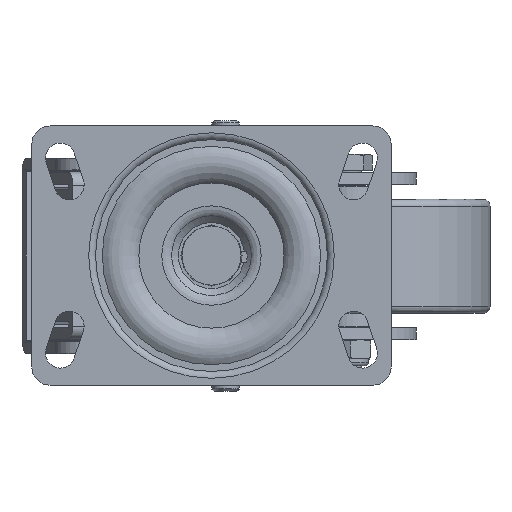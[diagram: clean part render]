
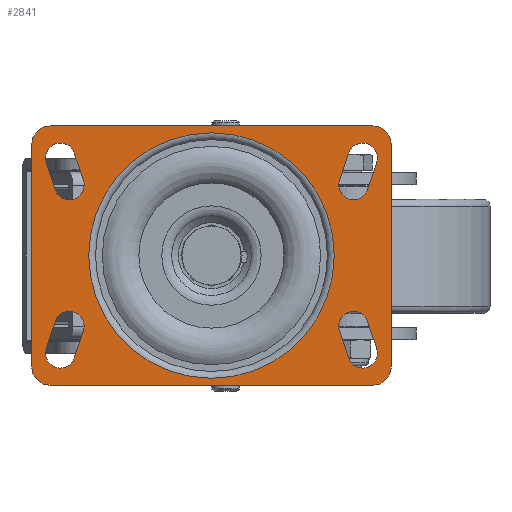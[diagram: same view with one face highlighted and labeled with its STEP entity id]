
A CAD part, top view. The second image highlights one B-rep face of the part: STEP entity #2841.
In plain terms, the highlighted planar face has unit normal (0, 0, 1).
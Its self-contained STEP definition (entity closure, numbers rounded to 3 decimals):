
#511=FACE_BOUND('',#4414,.T.);
#512=FACE_BOUND('',#4415,.T.);
#513=FACE_BOUND('',#4416,.T.);
#514=FACE_BOUND('',#4417,.T.);
#515=FACE_BOUND('',#4418,.T.);
#516=FACE_BOUND('',#4419,.T.);
#871=PLANE('',#13638);
#1337=LINE('',#21099,#2037);
#1342=LINE('',#21114,#2042);
#1346=LINE('',#21126,#2046);
#1350=LINE('',#21138,#2050);
#1361=LINE('',#21182,#2061);
#1362=LINE('',#21187,#2062);
#1363=LINE('',#21190,#2063);
#1364=LINE('',#21195,#2064);
#1365=LINE('',#21201,#2065);
#1366=LINE('',#21205,#2066);
#1367=LINE('',#21209,#2067);
#1368=LINE('',#21213,#2068);
#2037=VECTOR('',#15492,1.);
#2042=VECTOR('',#15505,1.);
#2046=VECTOR('',#15517,1.);
#2050=VECTOR('',#15529,1.);
#2061=VECTOR('',#15568,1.);
#2062=VECTOR('',#15571,1.);
#2063=VECTOR('',#15574,1.);
#2064=VECTOR('',#15577,1.);
#2065=VECTOR('',#15582,1.);
#2066=VECTOR('',#15585,1.);
#2067=VECTOR('',#15588,1.);
#2068=VECTOR('',#15591,1.);
#2841=ADVANCED_FACE('',(#511,#512,#513,#514,#515,#516),#871,.T.);
#4414=EDGE_LOOP('',(#6740,#6741,#6742,#6743));
#4415=EDGE_LOOP('',(#6744,#6745,#6746,#6747));
#4416=EDGE_LOOP('',(#6748,#6749,#6750,#6751));
#4417=EDGE_LOOP('',(#6752,#6753,#6754,#6755));
#4418=EDGE_LOOP('',(#6756,#6757,#6758,#6759,#6760,#6761,#6762,#6763));
#4419=EDGE_LOOP('',(#6764));
#5378=CIRCLE('',#13604,8.);
#5380=CIRCLE('',#13608,8.);
#5382=CIRCLE('',#13612,8.);
#5384=CIRCLE('',#13616,8.);
#5395=CIRCLE('',#13629,6.5);
#5396=CIRCLE('',#13630,6.5);
#5397=CIRCLE('',#13631,6.5);
#5398=CIRCLE('',#13632,6.5);
#5399=CIRCLE('',#13633,6.5);
#5400=CIRCLE('',#13634,6.5);
#5401=CIRCLE('',#13635,6.5);
#5402=CIRCLE('',#13636,6.5);
#5403=CIRCLE('',#13637,54.);
#6740=ORIENTED_EDGE('',*,*,#11362,.F.);
#6741=ORIENTED_EDGE('',*,*,#11363,.F.);
#6742=ORIENTED_EDGE('',*,*,#11364,.F.);
#6743=ORIENTED_EDGE('',*,*,#11365,.F.);
#6744=ORIENTED_EDGE('',*,*,#11366,.F.);
#6745=ORIENTED_EDGE('',*,*,#11367,.F.);
#6746=ORIENTED_EDGE('',*,*,#11368,.F.);
#6747=ORIENTED_EDGE('',*,*,#11369,.F.);
#6748=ORIENTED_EDGE('',*,*,#11370,.T.);
#6749=ORIENTED_EDGE('',*,*,#11371,.T.);
#6750=ORIENTED_EDGE('',*,*,#11372,.T.);
#6751=ORIENTED_EDGE('',*,*,#11373,.T.);
#6752=ORIENTED_EDGE('',*,*,#11374,.T.);
#6753=ORIENTED_EDGE('',*,*,#11375,.T.);
#6754=ORIENTED_EDGE('',*,*,#11376,.T.);
#6755=ORIENTED_EDGE('',*,*,#11377,.T.);
#6756=ORIENTED_EDGE('',*,*,#11321,.T.);
#6757=ORIENTED_EDGE('',*,*,#11325,.T.);
#6758=ORIENTED_EDGE('',*,*,#11328,.T.);
#6759=ORIENTED_EDGE('',*,*,#11331,.T.);
#6760=ORIENTED_EDGE('',*,*,#11334,.T.);
#6761=ORIENTED_EDGE('',*,*,#11337,.T.);
#6762=ORIENTED_EDGE('',*,*,#11340,.T.);
#6763=ORIENTED_EDGE('',*,*,#11343,.T.);
#6764=ORIENTED_EDGE('',*,*,#11378,.F.);
#9919=VERTEX_POINT('',#21100);
#9920=VERTEX_POINT('',#21101);
#9923=VERTEX_POINT('',#21109);
#9925=VERTEX_POINT('',#21115);
#9927=VERTEX_POINT('',#21121);
#9929=VERTEX_POINT('',#21127);
#9931=VERTEX_POINT('',#21133);
#9933=VERTEX_POINT('',#21139);
#9952=VERTEX_POINT('',#21183);
#9953=VERTEX_POINT('',#21184);
#9954=VERTEX_POINT('',#21186);
#9955=VERTEX_POINT('',#21188);
#9956=VERTEX_POINT('',#21191);
#9957=VERTEX_POINT('',#21192);
#9958=VERTEX_POINT('',#21194);
#9959=VERTEX_POINT('',#21196);
#9960=VERTEX_POINT('',#21199);
#9961=VERTEX_POINT('',#21200);
#9962=VERTEX_POINT('',#21202);
#9963=VERTEX_POINT('',#21204);
#9964=VERTEX_POINT('',#21207);
#9965=VERTEX_POINT('',#21208);
#9966=VERTEX_POINT('',#21210);
#9967=VERTEX_POINT('',#21212);
#9968=VERTEX_POINT('',#21215);
#11321=EDGE_CURVE('',#9919,#9920,#1337,.T.);
#11325=EDGE_CURVE('',#9920,#9923,#5378,.T.);
#11328=EDGE_CURVE('',#9923,#9925,#1342,.T.);
#11331=EDGE_CURVE('',#9925,#9927,#5380,.T.);
#11334=EDGE_CURVE('',#9927,#9929,#1346,.T.);
#11337=EDGE_CURVE('',#9929,#9931,#5382,.T.);
#11340=EDGE_CURVE('',#9931,#9933,#1350,.T.);
#11343=EDGE_CURVE('',#9933,#9919,#5384,.T.);
#11362=EDGE_CURVE('',#9952,#9953,#1361,.T.);
#11363=EDGE_CURVE('',#9954,#9952,#5395,.T.);
#11364=EDGE_CURVE('',#9955,#9954,#1362,.T.);
#11365=EDGE_CURVE('',#9953,#9955,#5396,.T.);
#11366=EDGE_CURVE('',#9956,#9957,#1363,.T.);
#11367=EDGE_CURVE('',#9958,#9956,#5397,.T.);
#11368=EDGE_CURVE('',#9959,#9958,#1364,.T.);
#11369=EDGE_CURVE('',#9957,#9959,#5398,.T.);
#11370=EDGE_CURVE('',#9960,#9961,#5399,.T.);
#11371=EDGE_CURVE('',#9961,#9962,#1365,.T.);
#11372=EDGE_CURVE('',#9962,#9963,#5400,.T.);
#11373=EDGE_CURVE('',#9963,#9960,#1366,.T.);
#11374=EDGE_CURVE('',#9964,#9965,#5401,.T.);
#11375=EDGE_CURVE('',#9965,#9966,#1367,.T.);
#11376=EDGE_CURVE('',#9966,#9967,#5402,.T.);
#11377=EDGE_CURVE('',#9967,#9964,#1368,.T.);
#11378=EDGE_CURVE('',#9968,#9968,#5403,.T.);
#13604=AXIS2_PLACEMENT_3D('',#21108,#15498,#15499);
#13608=AXIS2_PLACEMENT_3D('',#21120,#15510,#15511);
#13612=AXIS2_PLACEMENT_3D('',#21132,#15522,#15523);
#13616=AXIS2_PLACEMENT_3D('',#21144,#15534,#15535);
#13629=AXIS2_PLACEMENT_3D('',#21185,#15569,#15570);
#13630=AXIS2_PLACEMENT_3D('',#21189,#15572,#15573);
#13631=AXIS2_PLACEMENT_3D('',#21193,#15575,#15576);
#13632=AXIS2_PLACEMENT_3D('',#21197,#15578,#15579);
#13633=AXIS2_PLACEMENT_3D('',#21198,#15580,#15581);
#13634=AXIS2_PLACEMENT_3D('',#21203,#15583,#15584);
#13635=AXIS2_PLACEMENT_3D('',#21206,#15586,#15587);
#13636=AXIS2_PLACEMENT_3D('',#21211,#15589,#15590);
#13637=AXIS2_PLACEMENT_3D('',#21214,#15592,#15593);
#13638=AXIS2_PLACEMENT_3D('',#21216,#15594,#15595);
#15492=DIRECTION('',(-1.,0.,0.));
#15498=DIRECTION('',(0.,0.,1.));
#15499=DIRECTION('',(1.,0.,0.));
#15505=DIRECTION('',(0.,-1.,0.));
#15510=DIRECTION('',(0.,0.,1.));
#15511=DIRECTION('',(1.,0.,0.));
#15517=DIRECTION('',(1.,0.,0.));
#15522=DIRECTION('',(0.,0.,1.));
#15523=DIRECTION('',(1.,0.,0.));
#15529=DIRECTION('',(0.,1.,0.));
#15534=DIRECTION('',(0.,0.,1.));
#15535=DIRECTION('',(1.,0.,0.));
#15568=DIRECTION('',(-0.316,0.949,0.));
#15569=DIRECTION('',(0.,0.,1.));
#15570=DIRECTION('',(-1.,0.,0.));
#15571=DIRECTION('',(0.316,-0.949,0.));
#15572=DIRECTION('',(0.,0.,1.));
#15573=DIRECTION('',(-1.,0.,0.));
#15574=DIRECTION('',(0.316,0.949,0.));
#15575=DIRECTION('',(0.,0.,1.));
#15576=DIRECTION('',(-1.,0.,0.));
#15577=DIRECTION('',(-0.316,-0.949,0.));
#15578=DIRECTION('',(0.,0.,1.));
#15579=DIRECTION('',(-1.,0.,0.));
#15580=DIRECTION('',(0.,0.,-1.));
#15581=DIRECTION('',(1.,0.,0.));
#15582=DIRECTION('',(0.316,0.949,0.));
#15583=DIRECTION('',(0.,0.,-1.));
#15584=DIRECTION('',(1.,0.,0.));
#15585=DIRECTION('',(-0.316,-0.949,0.));
#15586=DIRECTION('',(0.,0.,-1.));
#15587=DIRECTION('',(1.,0.,0.));
#15588=DIRECTION('',(-0.316,0.949,0.));
#15589=DIRECTION('',(0.,0.,-1.));
#15590=DIRECTION('',(1.,0.,0.));
#15591=DIRECTION('',(0.316,-0.949,0.));
#15592=DIRECTION('',(0.,0.,1.));
#15593=DIRECTION('',(0.,-1.,0.));
#15594=DIRECTION('',(0.,0.,1.));
#15595=DIRECTION('',(0.,1.,0.));
#21099=CARTESIAN_POINT('',(71.,57.,0.));
#21100=CARTESIAN_POINT('',(71.,57.,0.));
#21101=CARTESIAN_POINT('',(-71.,57.,0.));
#21108=CARTESIAN_POINT('',(-71.,49.,0.));
#21109=CARTESIAN_POINT('',(-79.,49.,0.));
#21114=CARTESIAN_POINT('',(-79.,49.,0.));
#21115=CARTESIAN_POINT('',(-79.,-49.,0.));
#21120=CARTESIAN_POINT('',(-71.,-49.,0.));
#21121=CARTESIAN_POINT('',(-71.,-57.,0.));
#21126=CARTESIAN_POINT('',(-71.,-57.,0.));
#21127=CARTESIAN_POINT('',(71.,-57.,0.));
#21132=CARTESIAN_POINT('',(71.,-49.,0.));
#21133=CARTESIAN_POINT('',(79.,-49.,0.));
#21138=CARTESIAN_POINT('',(79.,-49.,0.));
#21139=CARTESIAN_POINT('',(79.,49.,0.));
#21144=CARTESIAN_POINT('',(71.,49.,0.));
#21182=CARTESIAN_POINT('',(-56.309,32.981,0.));
#21183=CARTESIAN_POINT('',(-56.309,32.981,0.));
#21184=CARTESIAN_POINT('',(-60.334,45.055,0.));
#21185=CARTESIAN_POINT('',(-62.5,31.,0.));
#21186=CARTESIAN_POINT('',(-68.691,29.019,0.));
#21187=CARTESIAN_POINT('',(-72.666,40.945,0.));
#21188=CARTESIAN_POINT('',(-72.666,40.945,0.));
#21189=CARTESIAN_POINT('',(-66.5,43.,0.));
#21190=CARTESIAN_POINT('',(-60.334,-45.055,0.));
#21191=CARTESIAN_POINT('',(-60.334,-45.055,0.));
#21192=CARTESIAN_POINT('',(-56.334,-33.055,0.));
#21193=CARTESIAN_POINT('',(-66.5,-43.,0.));
#21194=CARTESIAN_POINT('',(-72.666,-40.945,0.));
#21195=CARTESIAN_POINT('',(-68.666,-28.945,0.));
#21196=CARTESIAN_POINT('',(-68.666,-28.945,0.));
#21197=CARTESIAN_POINT('',(-62.5,-31.,0.));
#21198=CARTESIAN_POINT('',(62.5,31.,0.));
#21199=CARTESIAN_POINT('',(68.691,29.019,0.));
#21200=CARTESIAN_POINT('',(56.309,32.981,0.));
#21201=CARTESIAN_POINT('',(56.309,32.981,0.));
#21202=CARTESIAN_POINT('',(60.334,45.055,0.));
#21203=CARTESIAN_POINT('',(66.5,43.,0.));
#21204=CARTESIAN_POINT('',(72.666,40.945,0.));
#21205=CARTESIAN_POINT('',(72.666,40.945,0.));
#21206=CARTESIAN_POINT('',(66.5,-43.,0.));
#21207=CARTESIAN_POINT('',(72.666,-40.945,0.));
#21208=CARTESIAN_POINT('',(60.334,-45.055,0.));
#21209=CARTESIAN_POINT('',(60.334,-45.055,0.));
#21210=CARTESIAN_POINT('',(56.334,-33.055,0.));
#21211=CARTESIAN_POINT('',(62.5,-31.,0.));
#21212=CARTESIAN_POINT('',(68.666,-28.945,0.));
#21213=CARTESIAN_POINT('',(68.666,-28.945,0.));
#21214=CARTESIAN_POINT('',(0.,0.,0.));
#21215=CARTESIAN_POINT('',(0.,-54.,0.));
#21216=CARTESIAN_POINT('',(-71.,49.,0.));
